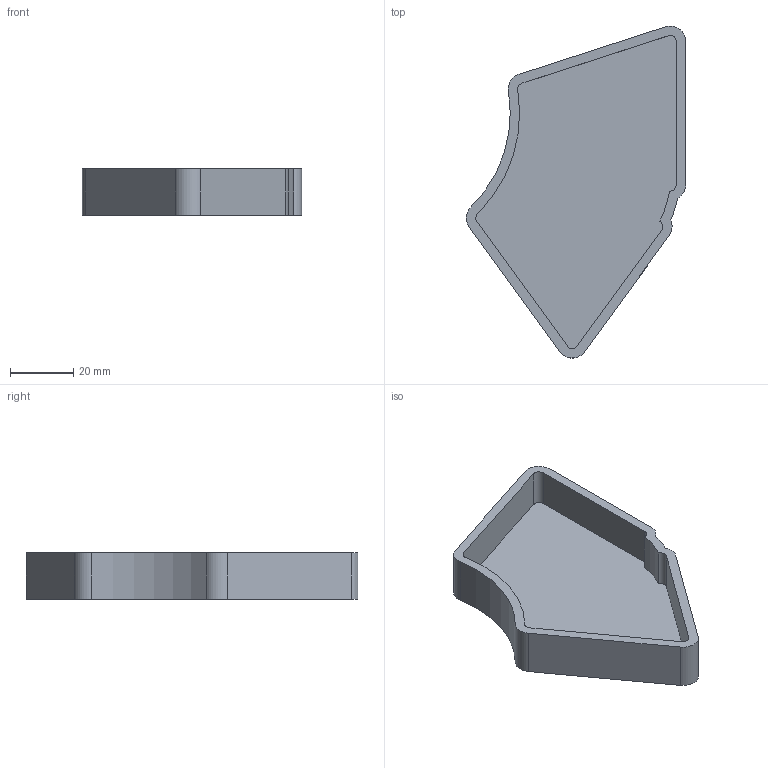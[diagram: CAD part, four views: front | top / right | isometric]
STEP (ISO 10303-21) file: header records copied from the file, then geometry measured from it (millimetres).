
FILE_DESCRIPTION(/* description */ (''),/* implementation_level */ '2;1');
FILE_NAME(/* name */ 'modulo doppio.step',/* time_stamp */ '2024-01-18T09:56:11+01:00',/* author */ (''),/* organization */ (''),/* preprocessor_version */ 'ST-DEVELOPER v20',/* originating_system */ 'Autodesk Translation Framework v12.14.0.127',/* authorisation */ '');
FILE_SCHEMA (('AUTOMOTIVE_DESIGN { 1 0 10303 214 3 1 1 }'));
Length unit declared in the file: millimetre
Products named in the file (1): base desk asimmetrica
Bounding box: 69.32 x 104.93 x 14.85 mm (x, y, z)
Volume: 23538.9 mm3; surface area: 16679.2 mm2
Topology: 1 solids, 1 shells, 27 faces, 72 edges, 48 vertices
Faces by surface type: cylinder 16, plane 11
Entity records: 891 total; most frequent: DIRECTION 160, CARTESIAN_POINT 148, ORIENTED_EDGE 144, EDGE_CURVE 72, AXIS2_PLACEMENT_3D 60, VERTEX_POINT 48, LINE 40, VECTOR 40
